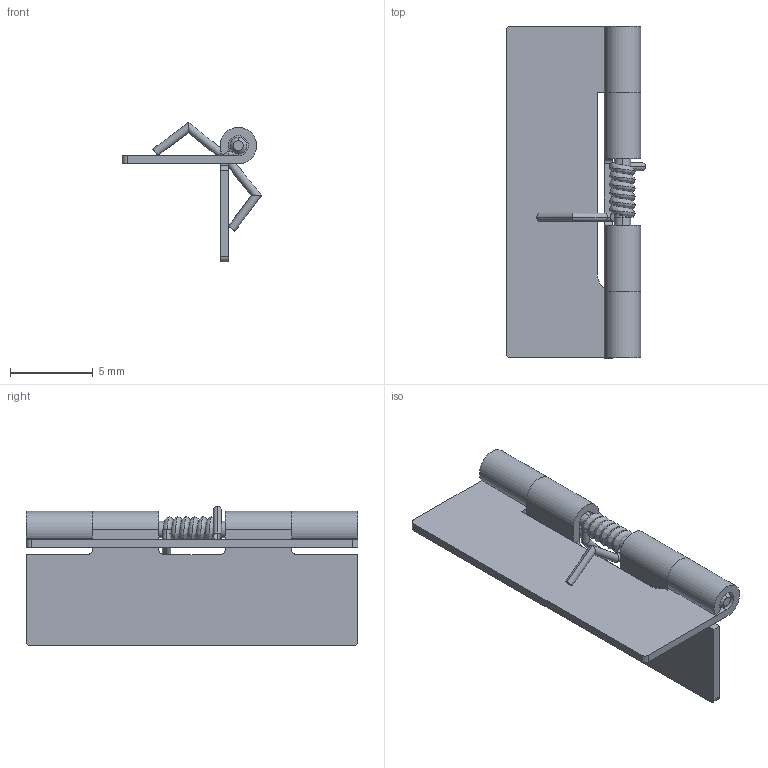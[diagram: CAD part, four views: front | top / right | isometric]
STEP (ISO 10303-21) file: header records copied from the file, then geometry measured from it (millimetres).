
FILE_DESCRIPTION (( 'STEP AP203' ), '1' );
FILE_NAME ('DEH-40-1.STEP', '2013-08-15T04:33:07', ( '中村　妙子' ), ( 'ＮＴ設計' ), 'SwSTEP 2.0', 'SolidWorks 2002296', '' );
FILE_SCHEMA (( 'CONFIG_CONTROL_DESIGN' ));
Length unit declared in the file: millimetre
Products named in the file (5): DEH-40-1; DEH-40-1-1_蹬怮椔; DEH-40-1-2_蹬怮椔; DEH-40-1-3_蹬怮椔; DEH-40-1-4_蹬怮椔
Assembly tree (4 placements, depth 2):
  DEH-40-1
    DEH-40-1-4_蹬怮椔
    DEH-40-1-2_蹬怮椔
    DEH-40-1-1_蹬怮椔
    DEH-40-1-3_蹬怮椔
Bounding box: 8.42 x 20 x 8.42 mm (x, y, z)
Volume: 20.3 mm3; surface area: 824 mm2
Topology: 3 solids, 7 shells, 69 faces, 165 edges, 106 vertices
Faces by surface type: cylinder 33, plane 30, cone 4, bspline 2
Entity records: 3958 total; most frequent: CARTESIAN_POINT 1832, DIRECTION 359, ORIENTED_EDGE 322, EDGE_CURVE 165, AXIS2_PLACEMENT_3D 131, VERTEX_POINT 106, VECTOR 97, LINE 97
